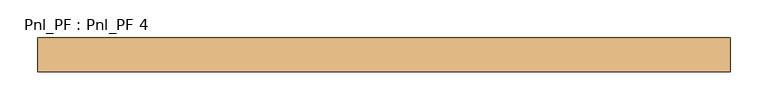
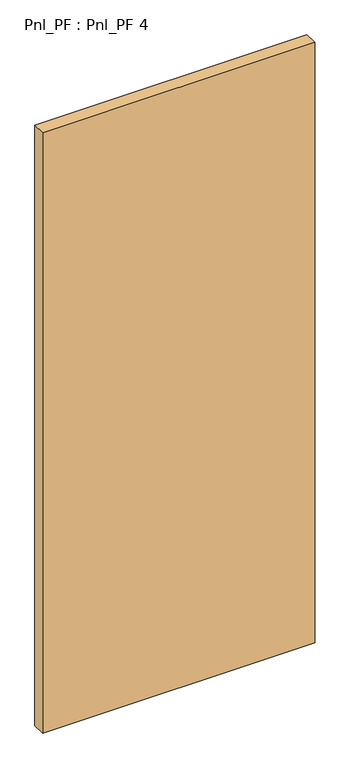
"""IFC4 building model written with IfcOpenShell, lengths in millimetres: door geometry, Pnl_PF : Pnl_PF 4."""

from ifc_helpers import new_model, si_unit, origin, origin_with_axes, place, context, project, spatial, polyline, outline, extrude, source, transform, mapped, element, save


def pnl_pf_pnl_pf_4_30113026(model_context):
    return source(origin(), model_context, "Body", "SweptSolid", [
        extrude(outline(polyline([(914.4, 44.45), (914.4, 0.0), (0.0, 0.0), (0.0, 44.45), (914.4, 44.45)])), origin_with_axes(), (0.0, 0.0, 1.0), 2133.6),
    ])


if __name__ == "__main__":
    model = new_model("IFC4")
    model_context = context("Model", 3, world=origin())
    ifc_project = project(units=[si_unit("LENGTHUNIT", "METRE", prefix="MILLI")], contexts=[model_context])
    site = spatial("IfcSite", under=ifc_project)
    building = spatial("IfcBuilding", under=site)
    placement = place(None, origin())
    pnl_pf_pnl_pf_4_shape = pnl_pf_pnl_pf_4_30113026(model_context)
    element("IfcDoor", 1, ObjectType="Pnl_PF : Pnl_PF 4", at=placement, inside=building, context=model_context, shape_type="MappedRepresentation", body=[
        mapped(pnl_pf_pnl_pf_4_shape, transform((0.0, 0.0, 0.0), x_axis=(1.0, 0.0, 0.0), y_axis=(0.0, 1.0, 0.0), z_axis=(0.0, 0.0, 1.0))),
    ])
    save(model, "model.ifc")
